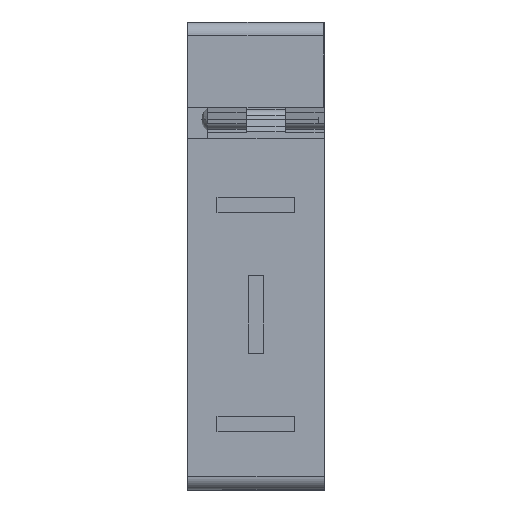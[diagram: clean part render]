
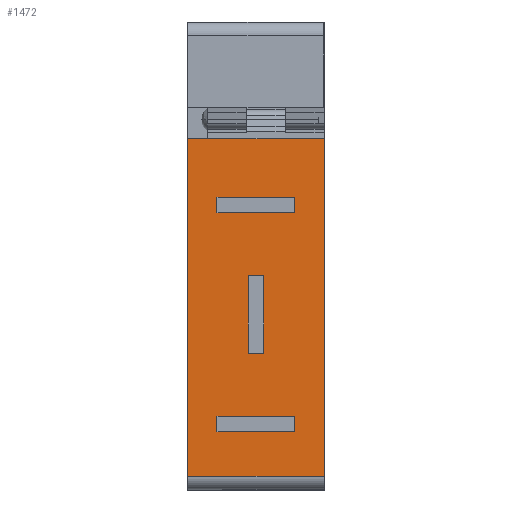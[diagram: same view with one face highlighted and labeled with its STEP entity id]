
A CAD part, left-side view. The second image highlights one B-rep face of the part: STEP entity #1472.
In plain terms, the highlighted planar face has unit normal (-1, 0, 0).
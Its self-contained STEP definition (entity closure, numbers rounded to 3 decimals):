
#197 = VERTEX_POINT ( 'NONE', #434 ) ;
#199 = VERTEX_POINT ( 'NONE', #436 ) ;
#200 = VERTEX_POINT ( 'NONE', #437 ) ;
#203 = VERTEX_POINT ( 'NONE', #440 ) ;
#204 = VERTEX_POINT ( 'NONE', #441 ) ;
#205 = VERTEX_POINT ( 'NONE', #442 ) ;
#206 = VERTEX_POINT ( 'NONE', #443 ) ;
#207 = VERTEX_POINT ( 'NONE', #444 ) ;
#208 = VERTEX_POINT ( 'NONE', #445 ) ;
#209 = VERTEX_POINT ( 'NONE', #446 ) ;
#210 = VERTEX_POINT ( 'NONE', #447 ) ;
#211 = VERTEX_POINT ( 'NONE', #448 ) ;
#212 = VERTEX_POINT ( 'NONE', #449 ) ;
#213 = VERTEX_POINT ( 'NONE', #450 ) ;
#214 = VERTEX_POINT ( 'NONE', #451 ) ;
#215 = VERTEX_POINT ( 'NONE', #452 ) ;
#434 = CARTESIAN_POINT ( 'NONE',  ( -256.464, 22.225, 2.032 ) ) ;
#436 = CARTESIAN_POINT ( 'NONE',  ( -256.464, -22.225, 2.032 ) ) ;
#437 = CARTESIAN_POINT ( 'NONE',  ( -256.464, 22.225, 111.912 ) ) ;
#440 = CARTESIAN_POINT ( 'NONE',  ( -256.464, -22.225, 111.912 ) ) ;
#441 = CARTESIAN_POINT ( 'NONE',  ( -256.464, -12.7, 87.82 ) ) ;
#442 = CARTESIAN_POINT ( 'NONE',  ( -256.464, -12.7, 92.9 ) ) ;
#443 = CARTESIAN_POINT ( 'NONE',  ( -256.464, 12.7, 87.82 ) ) ;
#444 = CARTESIAN_POINT ( 'NONE',  ( -256.464, 12.7, 92.9 ) ) ;
#445 = CARTESIAN_POINT ( 'NONE',  ( -256.464, -2.54, 42.024 ) ) ;
#446 = CARTESIAN_POINT ( 'NONE',  ( -256.464, -2.54, 67.424 ) ) ;
#447 = CARTESIAN_POINT ( 'NONE',  ( -256.464, 2.54, 42.024 ) ) ;
#448 = CARTESIAN_POINT ( 'NONE',  ( -256.464, 2.54, 67.424 ) ) ;
#449 = CARTESIAN_POINT ( 'NONE',  ( -256.464, -12.7, 16.548 ) ) ;
#450 = CARTESIAN_POINT ( 'NONE',  ( -256.464, -12.7, 21.628 ) ) ;
#451 = CARTESIAN_POINT ( 'NONE',  ( -256.464, 12.7, 16.548 ) ) ;
#452 = CARTESIAN_POINT ( 'NONE',  ( -256.464, 12.7, 21.628 ) ) ;
#482 = CARTESIAN_POINT ( 'NONE',  ( -256.464, 12.7, 87.82 ) ) ;
#487 = DIRECTION ( 'NONE',  ( 0., 0., -1. ) ) ;
#488 = CARTESIAN_POINT ( 'NONE',  ( -256.464, 22.225, 111.912 ) ) ;
#491 = DIRECTION ( 'NONE',  ( 0., 0., -1. ) ) ;
#674 = EDGE_LOOP ( 'NONE', ( #1168, #1169, #1170, #1171 ) ) ;
#676 = EDGE_LOOP ( 'NONE', ( #1172, #1173, #1174, #1175 ) ) ;
#677 = EDGE_LOOP ( 'NONE', ( #1176, #1177, #1178, #1179 ) ) ;
#678 = EDGE_LOOP ( 'NONE', ( #1180, #1181, #1182, #1183 ) ) ;
#746 = LINE ( 'NONE', #482, #946 ) ;
#748 = LINE ( 'NONE', #488, #1839 ) ;
#946 = VECTOR ( 'NONE', #487, 1000. ) ;
#1168 = ORIENTED_EDGE ( 'NONE', *, *, #2147, .F. ) ;
#1169 = ORIENTED_EDGE ( 'NONE', *, *, #2146, .F. ) ;
#1170 = ORIENTED_EDGE ( 'NONE', *, *, #1195, .F. ) ;
#1171 = ORIENTED_EDGE ( 'NONE', *, *, #2148, .F. ) ;
#1172 = ORIENTED_EDGE ( 'NONE', *, *, #2145, .F. ) ;
#1173 = ORIENTED_EDGE ( 'NONE', *, *, #2144, .F. ) ;
#1174 = ORIENTED_EDGE ( 'NONE', *, *, #2150, .F. ) ;
#1175 = ORIENTED_EDGE ( 'NONE', *, *, #2149, .F. ) ;
#1176 = ORIENTED_EDGE ( 'NONE', *, *, #2152, .F. ) ;
#1177 = ORIENTED_EDGE ( 'NONE', *, *, #2151, .F. ) ;
#1178 = ORIENTED_EDGE ( 'NONE', *, *, #2154, .F. ) ;
#1179 = ORIENTED_EDGE ( 'NONE', *, *, #2153, .F. ) ;
#1180 = ORIENTED_EDGE ( 'NONE', *, *, #1384, .F. ) ;
#1181 = ORIENTED_EDGE ( 'NONE', *, *, #2143, .T. ) ;
#1182 = ORIENTED_EDGE ( 'NONE', *, *, #2155, .T. ) ;
#1183 = ORIENTED_EDGE ( 'NONE', *, *, #1197, .T. ) ;
#1195 = EDGE_CURVE ( 'NONE', #207, #206, #746, .T. ) ;
#1197 = EDGE_CURVE ( 'NONE', #200, #197, #748, .T. ) ;
#1384 = EDGE_CURVE ( 'NONE', #199, #197, #3651, .T. ) ;
#1472 = ADVANCED_FACE ( 'NONE', ( #3789, #3795, #3797, #3799 ), #3121, .F. ) ;
#1839 = VECTOR ( 'NONE', #491, 1000. ) ;
#2143 = EDGE_CURVE ( 'NONE', #199, #203, #3879, .T. ) ;
#2144 = EDGE_CURVE ( 'NONE', #210, #208, #3884, .T. ) ;
#2145 = EDGE_CURVE ( 'NONE', #208, #209, #3880, .T. ) ;
#2146 = EDGE_CURVE ( 'NONE', #206, #204, #3881, .T. ) ;
#2147 = EDGE_CURVE ( 'NONE', #204, #205, #3883, .T. ) ;
#2148 = EDGE_CURVE ( 'NONE', #205, #207, #3887, .T. ) ;
#2149 = EDGE_CURVE ( 'NONE', #209, #211, #3889, .T. ) ;
#2150 = EDGE_CURVE ( 'NONE', #211, #210, #3891, .T. ) ;
#2151 = EDGE_CURVE ( 'NONE', #214, #212, #3893, .T. ) ;
#2152 = EDGE_CURVE ( 'NONE', #212, #213, #3895, .T. ) ;
#2153 = EDGE_CURVE ( 'NONE', #213, #215, #3897, .T. ) ;
#2154 = EDGE_CURVE ( 'NONE', #215, #214, #3899, .T. ) ;
#2155 = EDGE_CURVE ( 'NONE', #203, #200, #3901, .T. ) ;
#2820 = CARTESIAN_POINT ( 'NONE',  ( -256.464, 22.225, 2.032 ) ) ;
#2821 = DIRECTION ( 'NONE',  ( 0., 1., 0. ) ) ;
#3121 = PLANE ( 'NONE',  #4244 ) ;
#3122 = CARTESIAN_POINT ( 'NONE',  ( -256.464, 22.225, 111.912 ) ) ;
#3123 = DIRECTION ( 'NONE',  ( 1., 0., 0. ) ) ;
#3124 = DIRECTION ( 'NONE',  ( 0., 0., -1. ) ) ;
#3318 = CARTESIAN_POINT ( 'NONE',  ( -256.464, -22.225, 111.912 ) ) ;
#3321 = CARTESIAN_POINT ( 'NONE',  ( -256.464, -2.54, 42.024 ) ) ;
#3322 = DIRECTION ( 'NONE',  ( 0., 0., 1. ) ) ;
#3323 = CARTESIAN_POINT ( 'NONE',  ( -256.464, 2.54, 42.024 ) ) ;
#3324 = DIRECTION ( 'NONE',  ( 0., -1., 0. ) ) ;
#3325 = CARTESIAN_POINT ( 'NONE',  ( -256.464, 12.7, 87.82 ) ) ;
#3326 = DIRECTION ( 'NONE',  ( 0., 0., 1. ) ) ;
#3327 = CARTESIAN_POINT ( 'NONE',  ( -256.464, -12.7, 87.82 ) ) ;
#3328 = DIRECTION ( 'NONE',  ( 0., -1., 0. ) ) ;
#3329 = CARTESIAN_POINT ( 'NONE',  ( -256.464, 12.7, 92.9 ) ) ;
#3330 = DIRECTION ( 'NONE',  ( 0., 0., 1. ) ) ;
#3331 = CARTESIAN_POINT ( 'NONE',  ( -256.464, 2.54, 67.424 ) ) ;
#3332 = DIRECTION ( 'NONE',  ( 0., 1., 0. ) ) ;
#3333 = CARTESIAN_POINT ( 'NONE',  ( -256.464, 2.54, 42.024 ) ) ;
#3334 = DIRECTION ( 'NONE',  ( 0., 1., 0. ) ) ;
#3335 = CARTESIAN_POINT ( 'NONE',  ( -256.464, 12.7, 16.548 ) ) ;
#3336 = DIRECTION ( 'NONE',  ( 0., 0., -1. ) ) ;
#3337 = CARTESIAN_POINT ( 'NONE',  ( -256.464, -12.7, 16.548 ) ) ;
#3338 = DIRECTION ( 'NONE',  ( 0., -1., 0. ) ) ;
#3339 = CARTESIAN_POINT ( 'NONE',  ( -256.464, 12.7, 21.628 ) ) ;
#3340 = DIRECTION ( 'NONE',  ( 0., 0., 1. ) ) ;
#3341 = CARTESIAN_POINT ( 'NONE',  ( -256.464, 12.7, 16.548 ) ) ;
#3342 = DIRECTION ( 'NONE',  ( 0., 1., 0. ) ) ;
#3343 = CARTESIAN_POINT ( 'NONE',  ( -256.464, 22.225, 111.912 ) ) ;
#3344 = DIRECTION ( 'NONE',  ( 0., 0., -1. ) ) ;
#3346 = DIRECTION ( 'NONE',  ( 0., 1., 0. ) ) ;
#3651 = LINE ( 'NONE', #2820, #3652 ) ;
#3652 = VECTOR ( 'NONE', #2821, 1000. ) ;
#3789 = FACE_BOUND ( 'NONE', #674, .T. ) ;
#3795 = FACE_BOUND ( 'NONE', #676, .T. ) ;
#3797 = FACE_BOUND ( 'NONE', #677, .T. ) ;
#3799 = FACE_OUTER_BOUND ( 'NONE', #678, .T. ) ;
#3879 = LINE ( 'NONE', #3318, #3882 ) ;
#3880 = LINE ( 'NONE', #3321, #3886 ) ;
#3881 = LINE ( 'NONE', #3325, #3888 ) ;
#3882 = VECTOR ( 'NONE', #3322, 1000. ) ;
#3883 = LINE ( 'NONE', #3327, #3890 ) ;
#3884 = LINE ( 'NONE', #3323, #3885 ) ;
#3885 = VECTOR ( 'NONE', #3324, 1000. ) ;
#3886 = VECTOR ( 'NONE', #3326, 1000. ) ;
#3887 = LINE ( 'NONE', #3329, #3892 ) ;
#3888 = VECTOR ( 'NONE', #3328, 1000. ) ;
#3889 = LINE ( 'NONE', #3331, #3894 ) ;
#3890 = VECTOR ( 'NONE', #3330, 1000. ) ;
#3891 = LINE ( 'NONE', #3333, #3896 ) ;
#3892 = VECTOR ( 'NONE', #3332, 1000. ) ;
#3893 = LINE ( 'NONE', #3335, #3898 ) ;
#3894 = VECTOR ( 'NONE', #3334, 1000. ) ;
#3895 = LINE ( 'NONE', #3337, #3900 ) ;
#3896 = VECTOR ( 'NONE', #3336, 1000. ) ;
#3897 = LINE ( 'NONE', #3339, #3902 ) ;
#3898 = VECTOR ( 'NONE', #3338, 1000. ) ;
#3899 = LINE ( 'NONE', #3341, #3904 ) ;
#3900 = VECTOR ( 'NONE', #3340, 1000. ) ;
#3901 = LINE ( 'NONE', #3343, #3906 ) ;
#3902 = VECTOR ( 'NONE', #3342, 1000. ) ;
#3904 = VECTOR ( 'NONE', #3344, 1000. ) ;
#3906 = VECTOR ( 'NONE', #3346, 1000. ) ;
#4244 = AXIS2_PLACEMENT_3D ( 'NONE', #3122, #3123, #3124 ) ;
